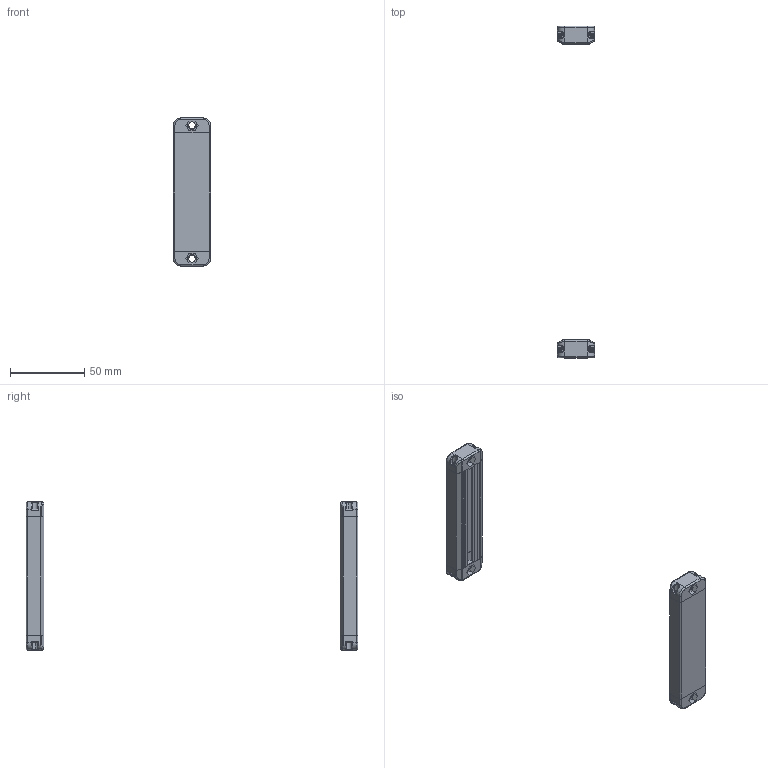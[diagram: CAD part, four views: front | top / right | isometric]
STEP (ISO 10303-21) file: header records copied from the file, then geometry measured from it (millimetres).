
FILE_DESCRIPTION (( 'STEP AP203' ), '1' );
FILE_NAME ('ZDB0420-80.STEP', '2022-08-31T03:05:19', ( 'Windows 蚚誧' ), ( 'Organization' ), 'SwSTEP 2.0', 'SolidWorks 2020', '' );
FILE_SCHEMA (( 'CONFIG_CONTROL_DESIGN' ));
Length unit declared in the file: millimetre
Products named in the file (4): 傷裔衵; 傷裔酘諉彶; 媼啃3臏倰第; ZDB0420-80
Assembly tree (6 placements, depth 2):
  ZDB0420-80
    傷裔衵  x2
    傷裔酘諉彶  x2
    媼啃3臏倰第  x2
Bounding box: 25 x 224 x 100 mm (x, y, z)
Volume: 20753 mm3; surface area: 33643.8 mm2
Topology: 6 solids, 6 shells, 650 faces, 1758 edges, 1124 vertices
Faces by surface type: plane 406, cylinder 188, torus 32, bspline 16, sphere 8
Entity records: 11427 total; most frequent: CARTESIAN_POINT 2721, ORIENTED_EDGE 1750, DIRECTION 1687, EDGE_CURVE 875, VECTOR 631, LINE 631, VERTEX_POINT 562, AXIS2_PLACEMENT_3D 528
